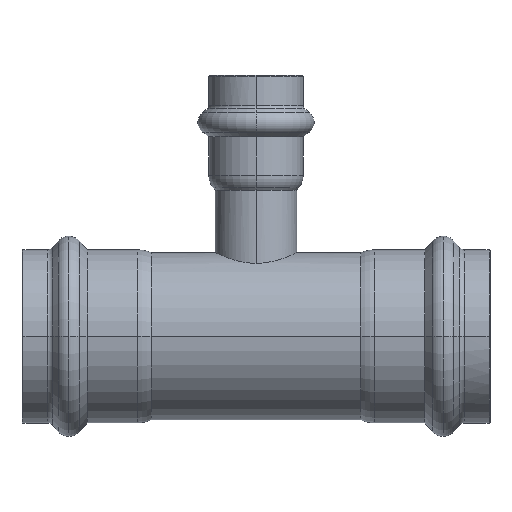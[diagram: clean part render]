
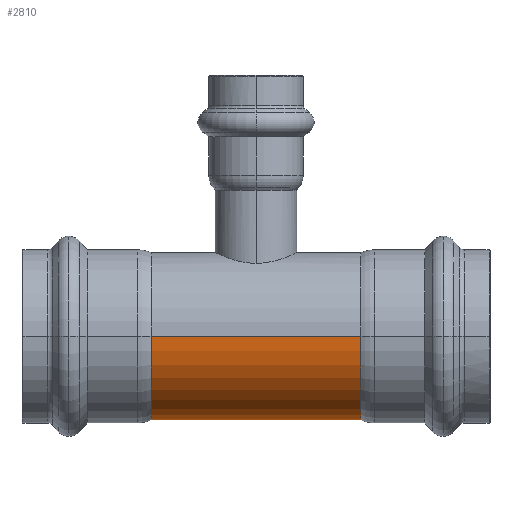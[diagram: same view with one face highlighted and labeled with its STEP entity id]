
A CAD part, left-side view. The second image highlights one B-rep face of the part: STEP entity #2810.
In plain terms, the highlighted cylindrical face has radius 18.5 mm (diameter 37 mm), a partial arc.
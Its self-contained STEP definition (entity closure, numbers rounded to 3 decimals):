
#2250=CARTESIAN_POINT('',(49.506,37.239,0.));
#2260=VERTEX_POINT('',#2250);
#2360=CARTESIAN_POINT('',(12.506,37.239,0.));
#2370=VERTEX_POINT('',#2360);
#2400=CARTESIAN_POINT('',(31.006,37.239,0.));
#2410=DIRECTION('',(0.,1.,0.));
#2420=DIRECTION('',(-1.,0.,0.));
#2430=AXIS2_PLACEMENT_3D('',#2400,#2410,#2420);
#2440=CIRCLE('',#2430,18.5);
#2450=EDGE_CURVE('',#2260,#2370,#2440,.T.);
#2500=CARTESIAN_POINT('',(31.006,14.039,0.));
#2510=DIRECTION('',(0.,1.,0.));
#2520=DIRECTION('',(1.,0.,0.));
#2530=AXIS2_PLACEMENT_3D('',#2500,#2510,#2520);
#2540=CYLINDRICAL_SURFACE('',#2530,18.5);
#2550=CARTESIAN_POINT('',(49.506,14.039,0.));
#2560=DIRECTION('',(0.,1.,0.));
#2570=VECTOR('',#2560,1.);
#2580=LINE('',#2550,#2570);
#2590=CARTESIAN_POINT('',(49.506,-9.161,0.));
#2600=VERTEX_POINT('',#2590);
#2610=EDGE_CURVE('',#2600,#2260,#2580,.T.);
#2620=ORIENTED_EDGE('',*,*,#2610,.F.);
#2630=ORIENTED_EDGE('',*,*,#2450,.F.);
#2640=CARTESIAN_POINT('',(12.506,14.039,
0.));
#2650=DIRECTION('',(0.,1.,0.));
#2660=VECTOR('',#2650,1.);
#2670=LINE('',#2640,#2660);
#2680=CARTESIAN_POINT('',(12.506,-9.161,0.));
#2690=VERTEX_POINT('',#2680);
#2700=EDGE_CURVE('',#2690,#2370,#2670,.T.);
#2710=ORIENTED_EDGE('',*,*,#2700,.T.);
#2720=CARTESIAN_POINT('',(31.006,-9.161,0.));
#2730=DIRECTION('',(0.,1.,0.));
#2740=DIRECTION('',(-1.,0.,0.));
#2750=AXIS2_PLACEMENT_3D('',#2720,#2730,#2740);
#2760=CIRCLE('',#2750,18.5);
#2770=EDGE_CURVE('',#2600,#2690,#2760,.T.);
#2780=ORIENTED_EDGE('',*,*,#2770,.T.);
#2790=EDGE_LOOP('',(#2780,#2710,#2630,#2620));
#2800=FACE_OUTER_BOUND('',#2790,.T.);
#2810=ADVANCED_FACE('',(#2800),#2540,.T.);
